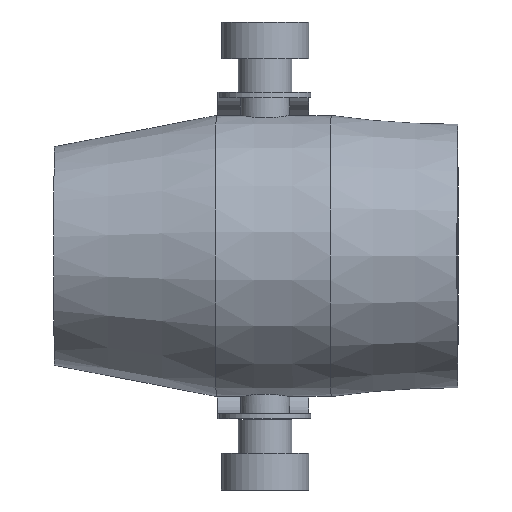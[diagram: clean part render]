
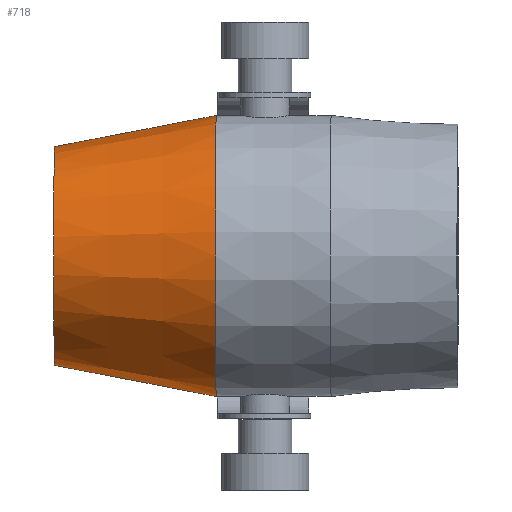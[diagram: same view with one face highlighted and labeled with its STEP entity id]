
A CAD part, front view. The second image highlights one B-rep face of the part: STEP entity #718.
In plain terms, the highlighted conical face has half-angle 10.923 degrees and reference radius 40 mm.
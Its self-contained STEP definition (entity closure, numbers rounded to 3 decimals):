
#19=CONICAL_SURFACE('',#832,40.,0.191);
#113=FACE_OUTER_BOUND('',#164,.T.);
#164=EDGE_LOOP('',(#632,#633,#634,#635,#636,#637));
#211=LINE('',#1342,#256);
#256=VECTOR('',#1056,40.);
#298=CIRCLE('',#830,31.107);
#299=CIRCLE('',#831,31.107);
#300=CIRCLE('',#833,40.);
#301=CIRCLE('',#834,40.);
#362=VERTEX_POINT('',#1336);
#363=VERTEX_POINT('',#1337);
#364=VERTEX_POINT('',#1341);
#365=VERTEX_POINT('',#1343);
#455=EDGE_CURVE('',#362,#363,#298,.T.);
#456=EDGE_CURVE('',#363,#362,#299,.T.);
#457=EDGE_CURVE('',#363,#364,#211,.T.);
#458=EDGE_CURVE('',#365,#364,#300,.T.);
#459=EDGE_CURVE('',#364,#365,#301,.T.);
#632=ORIENTED_EDGE('',*,*,#455,.T.);
#633=ORIENTED_EDGE('',*,*,#457,.T.);
#634=ORIENTED_EDGE('',*,*,#458,.F.);
#635=ORIENTED_EDGE('',*,*,#459,.F.);
#636=ORIENTED_EDGE('',*,*,#457,.F.);
#637=ORIENTED_EDGE('',*,*,#456,.T.);
#718=ADVANCED_FACE('',(#113),#19,.T.);
#830=AXIS2_PLACEMENT_3D('',#1338,#1050,#1051);
#831=AXIS2_PLACEMENT_3D('',#1339,#1052,#1053);
#832=AXIS2_PLACEMENT_3D('',#1340,#1054,#1055);
#833=AXIS2_PLACEMENT_3D('',#1344,#1057,#1058);
#834=AXIS2_PLACEMENT_3D('',#1345,#1059,#1060);
#1050=DIRECTION('center_axis',(1.,-0.006,0.));
#1051=DIRECTION('ref_axis',(-0.006,-1.,0.));
#1052=DIRECTION('center_axis',(1.,-0.006,0.));
#1053=DIRECTION('ref_axis',(-0.006,-1.,0.));
#1054=DIRECTION('center_axis',(1.,-0.006,0.));
#1055=DIRECTION('ref_axis',(0.,0.,-1.));
#1056=DIRECTION('',(0.982,-0.006,0.189));
#1057=DIRECTION('center_axis',(1.,-0.006,0.));
#1058=DIRECTION('ref_axis',(0.,0.,-1.));
#1059=DIRECTION('center_axis',(1.,-0.006,0.));
#1060=DIRECTION('ref_axis',(0.,0.,-1.));
#1336=CARTESIAN_POINT('',(-45.449,-54.057,0.));
#1337=CARTESIAN_POINT('',(-45.272,-22.95,31.107));
#1338=CARTESIAN_POINT('Origin',(-45.272,-22.95,0.));
#1339=CARTESIAN_POINT('Origin',(-45.272,-22.95,0.));
#1340=CARTESIAN_POINT('Origin',(0.809,-23.213,0.));
#1341=CARTESIAN_POINT('',(0.809,-23.213,40.));
#1342=CARTESIAN_POINT('',(0.809,-23.213,40.));
#1343=CARTESIAN_POINT('',(0.809,-23.213,-40.));
#1344=CARTESIAN_POINT('Origin',(0.809,-23.213,0.));
#1345=CARTESIAN_POINT('Origin',(0.809,-23.213,0.));
